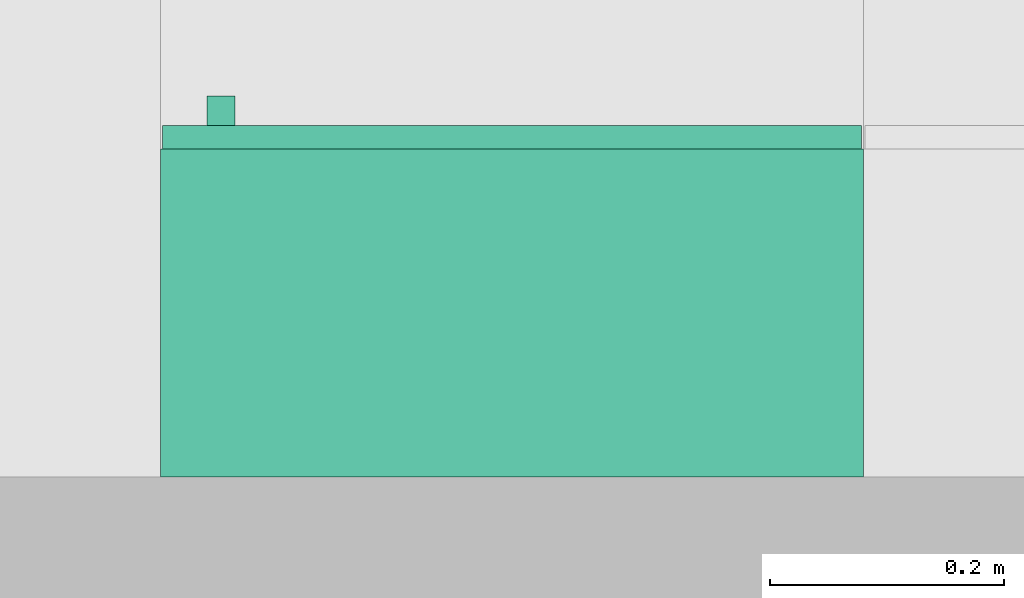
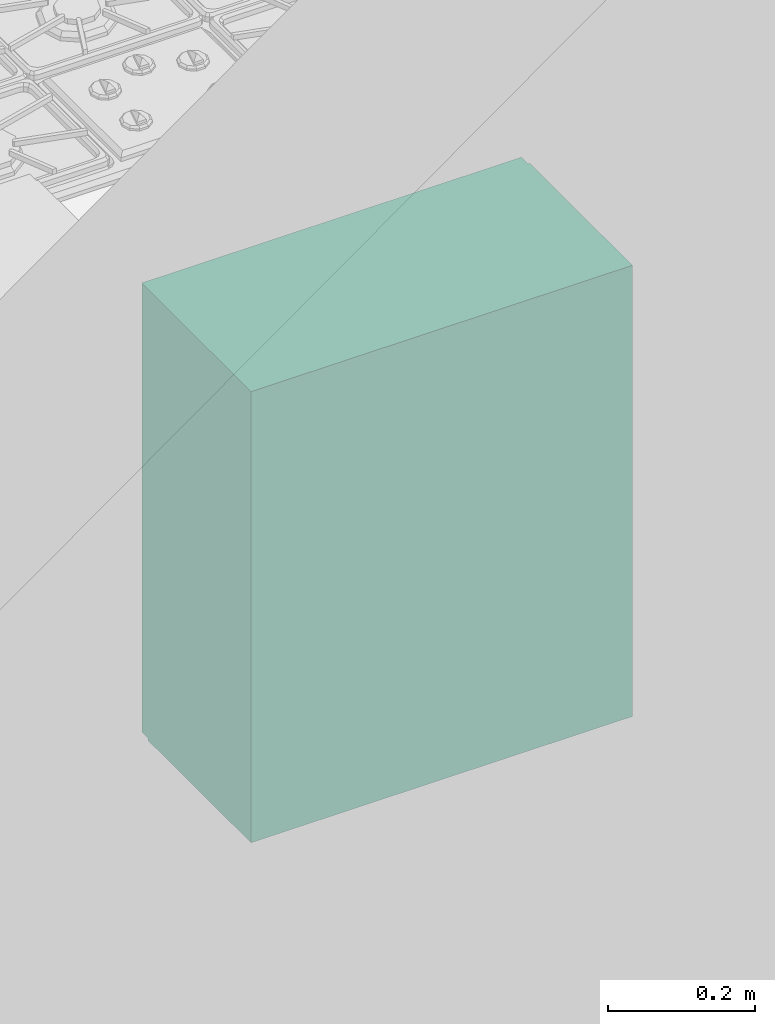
# One storey, part 21 of 26: 1 distribution element.
"""IFC2X3 building model written with IfcOpenShell, lengths in millimetres."""

from ifc_helpers import new_model, entity, si_unit, converted_unit, money_unit, direction, frame, origin_with_axes, place, context, subcontext, project, spatial, faceted_brep, material, type_object, element, save


model = new_model("IFC2X3")

# Units and contexts
model_context = context("Model", 3, precision=1e-05, world=origin_with_axes(), true_north=direction((0.0, 1.0)))
body_context = subcontext(model_context, "Body", "Model", "MODEL_VIEW")
ifc_project = project(units=[si_unit("LENGTHUNIT", "METRE", prefix="MILLI"), si_unit("AREAUNIT", "SQUARE_METRE"), si_unit("VOLUMEUNIT", "CUBIC_METRE"), converted_unit("PLANEANGLEUNIT", "DEGREE", entity("IfcPlaneAngleMeasure", 0.0174532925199), si_unit("PLANEANGLEUNIT", "RADIAN"), dimensions=[0, 0, 0, 0, 0, 0, 0]), si_unit("SOLIDANGLEUNIT", "STERADIAN"), money_unit("USD"), converted_unit("TIMEUNIT", "Year", entity("IfcTimeMeasure", 31556926.0), si_unit("TIMEUNIT", "SECOND"), dimensions=[0, 0, 0, 0, 0, 0, 0]), si_unit("MASSUNIT", "GRAM"), si_unit("THERMODYNAMICTEMPERATUREUNIT", "DEGREE_CELSIUS"), si_unit("LUMINOUSINTENSITYUNIT", "LUMEN")], contexts=[model_context])

# Site, building, storey
site_placement = place(None, origin_with_axes())
site = spatial("IfcSite", under=ifc_project, at=site_placement, Name="Grove Residential", CompositionType="ELEMENT")
building_placement = place(site_placement, origin_with_axes())
building = spatial("IfcBuilding", under=site, at=building_placement, Name="Building", CompositionType="ELEMENT")
storey_placement = place(building_placement, origin_with_axes())
storey = spatial("IfcBuildingStorey", under=building, at=storey_placement, Name="Ground Floor", CompositionType="ELEMENT", Elevation=0.0)

# Distribution element
ifc_material = material(Name="Background")
distribution_element_type = type_object("IfcDistributionElementType", Name="Cabinet Wall Single Door 21")
distribution_element_placement = place(storey_placement, frame((4800.0, 7360.00018153, 0.0), z_axis=(0.0, 0.0, 1.0), x_axis=(-1.0, 0.0, 0.0)))
element("IfcDistributionElement", 1, at=distribution_element_placement, inside=storey, type_object=distribution_element_type, material=ifc_material, Name="FU - 001", context=body_context, shape_type="Brep", body=[
    faceted_brep([(0.0, 20.0, 2230.0), (20.0, 20.0, 2230.0), (20.0, 20.0, 2250.0), (0.0, 20.0, 2250.0), (0.0, 300.0, 2230.0), (20.0, 300.0, 2230.0), (580.0, 300.0, 2230.0), (600.0, 300.0, 2230.0), (600.0, 20.0, 2230.0), (580.0, 20.0, 2230.0), (580.0, 20.0, 2250.0), (600.0, 20.0, 2250.0), (600.0, 300.0, 2250.0), (580.0, 300.0, 2250.0), (20.0, 300.0, 2250.0), (0.0, 300.0, 2250.0)], [[[0, 1, 2, 3]], [[0, 4, 5, 6, 7, 8, 9, 1]], [[1, 9, 10, 2]], [[3, 2, 10, 11, 12, 13, 14, 15]], [[4, 0, 3, 15]], [[5, 4, 15, 14]], [[6, 5, 14, 13]], [[7, 6, 13, 12]], [[8, 7, 12, 11]], [[9, 8, 11, 10]]]),
    faceted_brep([(0.0, 20.0, 1500.0), (20.0, 20.0, 1500.0), (20.0, 20.0, 1520.0), (0.0, 20.0, 1520.0), (0.0, 300.0, 1500.0), (20.0, 300.0, 1500.0), (580.0, 300.0, 1500.0), (600.0, 300.0, 1500.0), (600.0, 20.0, 1500.0), (580.0, 20.0, 1500.0), (580.0, 20.0, 1520.0), (600.0, 20.0, 1520.0), (600.0, 300.0, 1520.0), (580.0, 300.0, 1520.0), (20.0, 300.0, 1520.0), (0.0, 300.0, 1520.0)], [[[0, 1, 2, 3]], [[0, 4, 5, 6, 7, 8, 9, 1]], [[1, 9, 10, 2]], [[3, 2, 10, 11, 12, 13, 14, 15]], [[4, 0, 3, 15]], [[5, 4, 15, 14]], [[6, 5, 14, 13]], [[7, 6, 13, 12]], [[8, 7, 12, 11]], [[9, 8, 11, 10]]]),
    faceted_brep([(0.0, 20.0, 1520.0), (20.0, 20.0, 1520.0), (20.0, 20.0, 2230.0), (0.0, 20.0, 2230.0), (0.0, 300.0, 1520.0), (600.0, 300.0, 1520.0), (600.0, 20.0, 1520.0), (580.0, 20.0, 1520.0), (580.0, 280.0, 1520.0), (20.0, 280.0, 1520.0), (20.0, 280.0, 2230.0), (580.0, 280.0, 2230.0), (580.0, 20.0, 2230.0), (600.0, 20.0, 2230.0), (600.0, 300.0, 2230.0), (0.0, 300.0, 2230.0)], [[[0, 1, 2, 3]], [[0, 4, 5, 6, 7, 8, 9, 1]], [[1, 9, 10, 2]], [[3, 2, 10, 11, 12, 13, 14, 15]], [[4, 0, 3, 15]], [[5, 4, 15, 14]], [[6, 5, 14, 13]], [[7, 6, 13, 12]], [[8, 7, 12, 11]], [[9, 8, 11, 10]]]),
    faceted_brep([(580.0, 20.0, 1730.0), (580.0, 280.0, 1730.0), (580.0, 280.0, 1750.0), (580.0, 20.0, 1750.0), (20.0, 20.0, 1730.0), (20.0, 280.0, 1730.0), (20.0, 280.0, 1750.0), (20.0, 20.0, 1750.0)], [[[0, 1, 2, 3]], [[0, 4, 5, 1]], [[1, 5, 6, 2]], [[3, 2, 6, 7]], [[4, 0, 3, 7]], [[5, 4, 7, 6]]]),
    faceted_brep([(580.0, 20.0, 1980.0), (580.0, 280.0, 1980.0), (580.0, 280.0, 2000.0), (580.0, 20.0, 2000.0), (20.0, 20.0, 1980.0), (20.0, 280.0, 1980.0), (20.0, 280.0, 2000.0), (20.0, 20.0, 2000.0)], [[[0, 1, 2, 3]], [[0, 4, 5, 1]], [[1, 5, 6, 2]], [[3, 2, 6, 7]], [[4, 0, 3, 7]], [[5, 4, 7, 6]]]),
    faceted_brep([(1.5, 20.0, 1501.5), (598.5, 20.0, 1501.5), (598.5, 0.0, 1501.5), (1.5, 0.0, 1501.5), (1.5, 20.0, 2248.5), (598.5, 20.0, 2248.5), (598.5, 0.0, 2248.5), (1.5, 0.0, 2248.5)], [[[0, 1, 2, 3]], [[0, 4, 5, 1]], [[1, 5, 6, 2]], [[3, 2, 6, 7]], [[4, 0, 3, 7]], [[5, 4, 7, 6]]]),
    faceted_brep([(560.091109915, 0.0, 1548.39417146), (558.892304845, 0.0, 1545.5), (556.985281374, 0.0, 1543.01471863), (554.5, 0.0, 1541.10769515), (551.605828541, 0.0, 1539.90889008), (548.5, 0.0, 1539.5), (545.394171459, 0.0, 1539.90889008), (542.5, 0.0, 1541.10769515), (540.014718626, 0.0, 1543.01471863), (538.107695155, 0.0, 1545.5), (536.908890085, 0.0, 1548.39417146), (536.5, 0.0, 1551.5), (536.908890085, 0.0, 1554.60582854), (538.107695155, 0.0, 1557.5), (540.014718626, 0.0, 1559.98528137), (542.5, 0.0, 1561.89230485), (545.394171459, 0.0, 1563.09110992), (548.5, 0.0, 1563.5), (551.605828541, 0.0, 1563.09110992), (554.5, 0.0, 1561.89230485), (556.985281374, 0.0, 1559.98528137), (558.892304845, 0.0, 1557.5), (560.091109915, 0.0, 1554.60582854), (560.5, 0.0, 1551.5), (560.091109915, -25.0, 1548.39417146), (558.892304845, -25.0, 1545.5), (556.985281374, -25.0, 1543.01471863), (554.5, -25.0, 1541.10769515), (551.605828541, -25.0, 1539.90889008), (548.5, -25.0, 1539.5), (545.394171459, -25.0, 1539.90889008), (542.5, -25.0, 1541.10769515), (540.014718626, -25.0, 1543.01471863), (538.107695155, -25.0, 1545.5), (536.908890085, -25.0, 1548.39417146), (536.5, -25.0, 1551.5), (536.908890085, -25.0, 1554.60582854), (538.107695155, -25.0, 1557.5), (540.014718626, -25.0, 1559.98528137), (542.5, -25.0, 1561.89230485), (545.394171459, -25.0, 1563.09110992), (548.5, -25.0, 1563.5), (551.605828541, -25.0, 1563.09110992), (554.5, -25.0, 1561.89230485), (556.985281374, -25.0, 1559.98528137), (558.892304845, -25.0, 1557.5), (560.091109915, -25.0, 1554.60582854), (560.5, -25.0, 1551.5)], [[[0, 1, 2, 3, 4, 5, 6, 7, 8, 9, 10, 11, 12, 13, 14, 15, 16, 17, 18, 19, 20, 21, 22, 23]], [[1, 0, 24, 25]], [[2, 1, 25, 26]], [[3, 2, 26, 27]], [[4, 3, 27, 28]], [[5, 4, 28, 29]], [[6, 5, 29, 30]], [[7, 6, 30, 31]], [[8, 7, 31, 32]], [[9, 8, 32, 33]], [[10, 9, 33, 34]], [[11, 10, 34, 35]], [[12, 11, 35, 36]], [[13, 12, 36, 37]], [[14, 13, 37, 38]], [[15, 14, 38, 39]], [[16, 15, 39, 40]], [[17, 16, 40, 41]], [[18, 17, 41, 42]], [[19, 18, 42, 43]], [[20, 19, 43, 44]], [[21, 20, 44, 45]], [[22, 21, 45, 46]], [[23, 22, 46, 47]], [[0, 23, 47, 24]], [[24, 47, 46, 45, 44, 43, 42, 41, 40, 39, 38, 37, 36, 35, 34, 33, 32, 31, 30, 29, 28, 27, 26, 25]]]),
])

save(model, "model.ifc")
